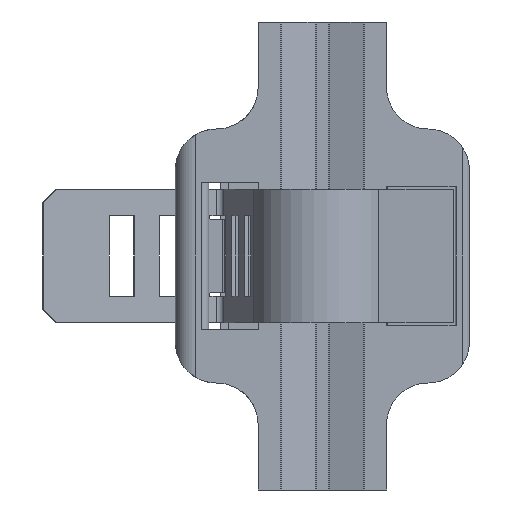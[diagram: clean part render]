
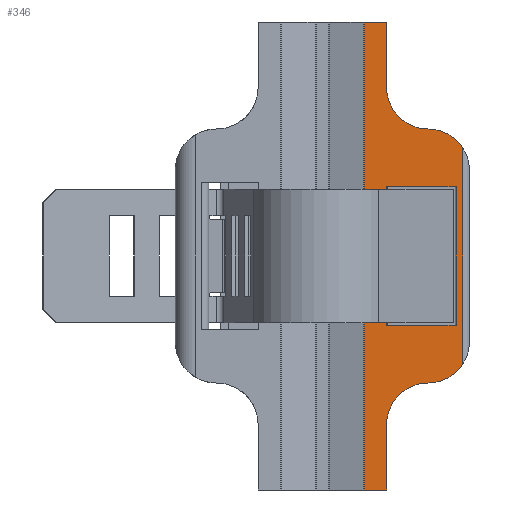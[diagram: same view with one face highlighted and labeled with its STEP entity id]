
A CAD part, front view. The second image highlights one B-rep face of the part: STEP entity #346.
In plain terms, the highlighted planar face has unit normal (0, -1, 0).
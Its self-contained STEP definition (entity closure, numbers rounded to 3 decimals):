
#346 = ADVANCED_FACE( '', ( #740, #741 ), #742, .F. );
#740 = FACE_BOUND( '', #1169, .T. );
#741 = FACE_OUTER_BOUND( '', #1170, .T. );
#742 = PLANE( '', #1171 );
#1169 = EDGE_LOOP( '', ( #2182, #2183, #2184, #2185 ) );
#1170 = EDGE_LOOP( '', ( #2186, #2187, #2188, #2189, #2190, #2191, #2192, #2193, #2194, #2195 ) );
#1171 = AXIS2_PLACEMENT_3D( '', #2196, #2197, #2198 );
#2182 = ORIENTED_EDGE( '', *, *, #3010, .F. );
#2183 = ORIENTED_EDGE( '', *, *, #2991, .T. );
#2184 = ORIENTED_EDGE( '', *, *, #3011, .T. );
#2185 = ORIENTED_EDGE( '', *, *, #2945, .F. );
#2186 = ORIENTED_EDGE( '', *, *, #2826, .T. );
#2187 = ORIENTED_EDGE( '', *, *, #2594, .F. );
#2188 = ORIENTED_EDGE( '', *, *, #2942, .T. );
#2189 = ORIENTED_EDGE( '', *, *, #2907, .F. );
#2190 = ORIENTED_EDGE( '', *, *, #2922, .F. );
#2191 = ORIENTED_EDGE( '', *, *, #2972, .F. );
#2192 = ORIENTED_EDGE( '', *, *, #3012, .T. );
#2193 = ORIENTED_EDGE( '', *, *, #2855, .F. );
#2194 = ORIENTED_EDGE( '', *, *, #3013, .F. );
#2195 = ORIENTED_EDGE( '', *, *, #3014, .T. );
#2196 = CARTESIAN_POINT( '', ( 3.13, 0., 17.5 ) );
#2197 = DIRECTION( '', ( 0., 1., 0. ) );
#2198 = DIRECTION( '', ( 0., 0., 1. ) );
#2594 = EDGE_CURVE( '', #3114, #3116, #3117, .T. );
#2826 = EDGE_CURVE( '', #3508, #3116, #3509, .T. );
#2855 = EDGE_CURVE( '', #3549, #3551, #3552, .T. );
#2907 = EDGE_CURVE( '', #3624, #3625, #3626, .T. );
#2922 = EDGE_CURVE( '', #3646, #3624, #3647, .T. );
#2942 = EDGE_CURVE( '', #3114, #3625, #3673, .T. );
#2945 = EDGE_CURVE( '', #3675, #3677, #3678, .T. );
#2972 = EDGE_CURVE( '', #3711, #3646, #3713, .T. );
#2991 = EDGE_CURVE( '', #3734, #3736, #3738, .T. );
#3010 = EDGE_CURVE( '', #3734, #3675, #3761, .T. );
#3011 = EDGE_CURVE( '', #3736, #3677, #3762, .T. );
#3012 = EDGE_CURVE( '', #3711, #3551, #3763, .T. );
#3013 = EDGE_CURVE( '', #3764, #3549, #3765, .T. );
#3014 = EDGE_CURVE( '', #3764, #3508, #3766, .T. );
#3114 = VERTEX_POINT( '', #3884 );
#3116 = VERTEX_POINT( '', #3887 );
#3117 = LINE( '', #3888, #3889 );
#3508 = VERTEX_POINT( '', #4476 );
#3509 = LINE( '', #4477, #4478 );
#3549 = VERTEX_POINT( '', #4552 );
#3551 = VERTEX_POINT( '', #4555 );
#3552 = LINE( '', #4556, #4557 );
#3624 = VERTEX_POINT( '', #4656 );
#3625 = VERTEX_POINT( '', #4657 );
#3626 = CIRCLE( '', #4658, 3.1 );
#3646 = VERTEX_POINT( '', #4694 );
#3647 = LINE( '', #4695, #4696 );
#3673 = CIRCLE( '', #4739, 3.1 );
#3675 = VERTEX_POINT( '', #4741 );
#3677 = VERTEX_POINT( '', #4744 );
#3678 = LINE( '', #4745, #4746 );
#3711 = VERTEX_POINT( '', #4793 );
#3713 = CIRCLE( '', #4796, 3.1 );
#3734 = VERTEX_POINT( '', #4826 );
#3736 = VERTEX_POINT( '', #4829 );
#3738 = LINE( '', #4832, #4833 );
#3761 = LINE( '', #4868, #4869 );
#3762 = LINE( '', #4870, #4871 );
#3763 = CIRCLE( '', #4872, 3.1 );
#3764 = VERTEX_POINT( '', #4873 );
#3765 = LINE( '', #4874, #4875 );
#3766 = LINE( '', #4876, #4877 );
#3884 = CARTESIAN_POINT( '', ( 4.8, 0., -12.6 ) );
#3887 = CARTESIAN_POINT( '', ( 4.8, 0., -17.5 ) );
#3888 = CARTESIAN_POINT( '', ( 4.8, 0., -12.6 ) );
#3889 = VECTOR( '', #5009, 1000. );
#4476 = CARTESIAN_POINT( '', ( 3.13, 0., -17.5 ) );
#4477 = CARTESIAN_POINT( '', ( 3.13, 0., -17.5 ) );
#4478 = VECTOR( '', #5288, 1000. );
#4552 = CARTESIAN_POINT( '', ( 4.8, 0., 17.5 ) );
#4555 = CARTESIAN_POINT( '', ( 4.8, 0., 12.6 ) );
#4556 = CARTESIAN_POINT( '', ( 4.8, 0., 17.5 ) );
#4557 = VECTOR( '', #5323, 1000. );
#4656 = CARTESIAN_POINT( '', ( 10.5, 0., -8.088 ) );
#4657 = CARTESIAN_POINT( '', ( 7.9, 0., -9.5 ) );
#4658 = AXIS2_PLACEMENT_3D( '', #5381, #5382, #5383 );
#4694 = CARTESIAN_POINT( '', ( 10.5, 0., 8.088 ) );
#4695 = CARTESIAN_POINT( '', ( 10.5, 0., 17.5 ) );
#4696 = VECTOR( '', #5397, 1000. );
#4739 = AXIS2_PLACEMENT_3D( '', #5418, #5419, #5420 );
#4741 = CARTESIAN_POINT( '', ( 4.799, 0., -5.181 ) );
#4744 = CARTESIAN_POINT( '', ( 10.001, 0., -5.181 ) );
#4745 = CARTESIAN_POINT( '', ( 4.799, 0., -5.181 ) );
#4746 = VECTOR( '', #5422, 1000. );
#4793 = CARTESIAN_POINT( '', ( 7.9, 0., 9.5 ) );
#4796 = AXIS2_PLACEMENT_3D( '', #5450, #5451, #5452 );
#4826 = CARTESIAN_POINT( '', ( 4.799, 0., 5.181 ) );
#4829 = CARTESIAN_POINT( '', ( 10.001, 0., 5.181 ) );
#4832 = CARTESIAN_POINT( '', ( 4.799, 0., 5.181 ) );
#4833 = VECTOR( '', #5467, 1000. );
#4868 = CARTESIAN_POINT( '', ( 4.799, 0., 5.181 ) );
#4869 = VECTOR( '', #5483, 1000. );
#4870 = CARTESIAN_POINT( '', ( 10.001, 0., 5.181 ) );
#4871 = VECTOR( '', #5484, 1000. );
#4872 = AXIS2_PLACEMENT_3D( '', #5485, #5486, #5487 );
#4873 = CARTESIAN_POINT( '', ( 3.13, 0., 17.5 ) );
#4874 = CARTESIAN_POINT( '', ( 3.13, 0., 17.5 ) );
#4875 = VECTOR( '', #5488, 1000. );
#4876 = CARTESIAN_POINT( '', ( 3.13, 0., 17.5 ) );
#4877 = VECTOR( '', #5489, 1000. );
#5009 = DIRECTION( '', ( 0., 0., -1. ) );
#5288 = DIRECTION( '', ( 1., 0., 0. ) );
#5323 = DIRECTION( '', ( 0., 0., -1. ) );
#5381 = CARTESIAN_POINT( '', ( 7.9, 0., -6.4 ) );
#5382 = DIRECTION( '', ( 0., 1., 0. ) );
#5383 = DIRECTION( '', ( 1., 0., 0. ) );
#5397 = DIRECTION( '', ( 0., 0., -1. ) );
#5418 = CARTESIAN_POINT( '', ( 7.9, 0., -12.6 ) );
#5419 = DIRECTION( '', ( 0., 1., 0. ) );
#5420 = DIRECTION( '', ( 1., 0., 0. ) );
#5422 = DIRECTION( '', ( 1., 0., 0. ) );
#5450 = CARTESIAN_POINT( '', ( 7.9, 0., 6.4 ) );
#5451 = DIRECTION( '', ( 0., 1., 0. ) );
#5452 = DIRECTION( '', ( 1., 0., 0. ) );
#5467 = DIRECTION( '', ( 1., 0., 0. ) );
#5483 = DIRECTION( '', ( 0., 0., -1. ) );
#5484 = DIRECTION( '', ( 0., 0., -1. ) );
#5485 = CARTESIAN_POINT( '', ( 7.9, 0., 12.6 ) );
#5486 = DIRECTION( '', ( 0., 1., 0. ) );
#5487 = DIRECTION( '', ( 1., 0., 0. ) );
#5488 = DIRECTION( '', ( 1., 0., 0. ) );
#5489 = DIRECTION( '', ( 0., 0., -1. ) );
